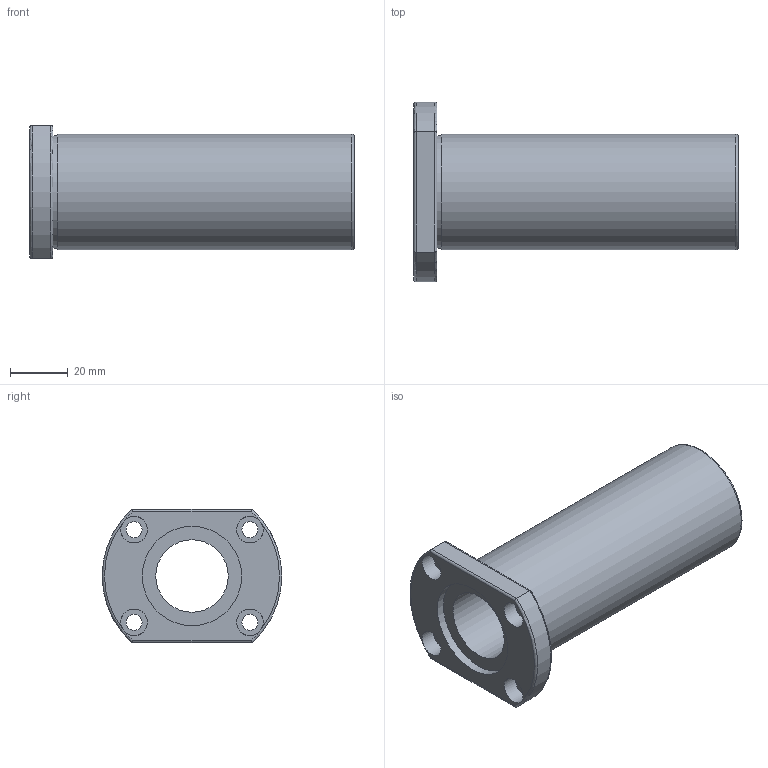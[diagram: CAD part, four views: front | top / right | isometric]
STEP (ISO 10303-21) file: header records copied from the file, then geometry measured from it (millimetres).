
FILE_DESCRIPTION( ( 'Unknown' ), '1' );
FILE_NAME( 'D:/累诀/己绕皋墨飘肺葱胶/11-04-06_档搁累己/01_府聪绢何教/LMH L/LMH 25L.stp', 'Unknown', ( 'Unknown' ), ( 'Unknown' ), 'PSStep 11.0', 'Unknown', ' ' );
FILE_SCHEMA( ( 'AUTOMOTIVE_DESIGN { 1 0 10303 214 1 1 1 1 }' ) );
Length unit declared in the file: millimetre
Products named in the file (1): 1
Bounding box: 112 x 62 x 46 mm (x, y, z)
Volume: 91813.2 mm3; surface area: 28237.2 mm2
Topology: 1 solids, 1 shells, 36 faces, 85 edges, 55 vertices
Faces by surface type: cylinder 19, plane 12, torus 5
Full cylindrical faces by diameter (mm): 5.5 x4, 9.2 x4, 25 x1, 34.306 x2, 39 x1, 40 x1
Entity records: 1314 total; most frequent: CARTESIAN_POINT 223, DIRECTION 172, ORIENTED_EDGE 134, AXIS2_PLACEMENT_3D 80, EDGE_CURVE 67, EDGE_LOOP 64, VERTEX_POINT 51, FACE_OUTER_BOUND 50
